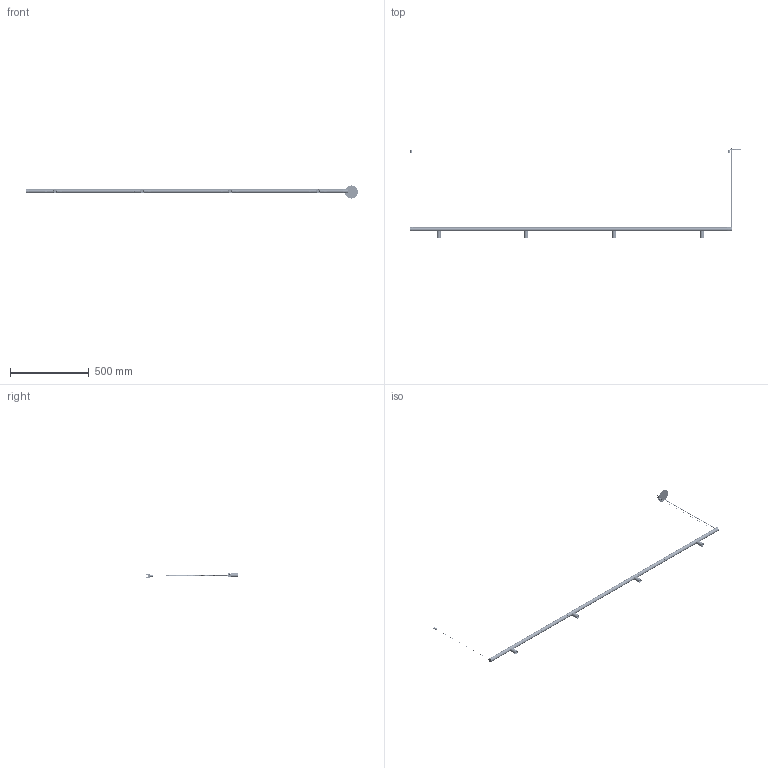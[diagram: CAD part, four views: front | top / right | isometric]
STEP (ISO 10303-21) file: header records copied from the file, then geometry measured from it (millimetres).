
FILE_DESCRIPTION (( 'STEP AP214' ), '1' );
FILE_NAME ('OVAL SPOT 20 rec.STEP', '2024-03-15T08:49:56', ( '' ), ( '' ), 'SwSTEP 2.0', 'SolidWorks 2024', '' );
FILE_SCHEMA (( 'AUTOMOTIVE_DESIGN' ));
Length unit declared in the file: millimetre
Products named in the file (41): CJ04 - ENS Foco Spot (V1.2)_V3 09-20; Tapa Floron Emp. MICRO_Tapa empotarable; CJ01-ENS_Adaptador 24V_Proyector; Ensamble Led; eje cable colgante_M8 MICRO; Tubo Alu. Focus 25_V3-30-09-21; Ensamble Tapa + Tope_Con Conector; Lente -115.11.HILL-20-22°-CREE; Tapon Tapa_2; Prisionero STEAB M4x4_8; Floron U Muelle MICRO; Difusor Negro Oval_0.44m; Taco cuerpo Micro; Jack_Scpre; Taco Micro_Ø10 M10*5; Tuerca M8_Predeterminada; Tapa Micro V5_V5.1; Conector Molex Hembra 43020; Regulador Cable Ø0.6 (Bereta LT1007.0601); Ensamble Tensor Micro_Con Cable; Boca Focus 25_ZDNTL; Perfil Micro V4_2m; DM05-Tapa SPOT(V1.2); CUI_DEVICES_PJ-005B_Ø2.5; Tuerca Hembra Conector Jack; 04-23DM03-Tope_Adaptador_1.3; Holder; 04-23DM01-Adaptador_Caja_DM01.3; Cable_VISUAL Alimentación Micro; Ensamblaje FLORON EMP. MICRO; 04-23DM02-Adaptador_Tapa(V1.2)_24V; Tija Tiny_Inyección ; Tapa Unión-Final V5_V5.1 Colgante Union ; Cable acero_0.5m; BLX V-4 Single Array; OVAL SPOT 20 rec; countersunk flat head cross recess screw_din_DIN EN ISO 7046-1 - M2.5 x 6 - Z - 6N; Tapa Alimentación Perfil_SCPRE; Ensamble Conector Jack Unión_Alimentación Colgante SCPRE; Difusor Negro Oval_0.1m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
Assembly tree (55 placements, depth 4):
  OVAL SPOT 20 rec
    Perfil Micro V4_2m
    CJ01-ENS_Adaptador 24V_Proyector  x4
      04-23DM01-Adaptador_Caja_DM01.3
      04-23DM02-Adaptador_Tapa(V1.2)_24V
      Conector Molex Hembra 43020
      Driver Entity EN1689
      04-23DM03-Tope_Adaptador_1.3
      Tija Tiny_Inyección 
    CJ04 - ENS Foco Spot (V1.2)_V3 09-20  x4
      Tubo Alu. Focus 25_V3-30-09-21
      Boca Focus 25_ZDNTL
      Ensamble Led
        BLX V-4 Single Array
        Holder
        countersunk flat head cross recess screw_din_DIN EN ISO 7046-1 - M2.5 x 6 - Z - 6N  x2
      Prisionero STEAB M4x4_8
      Lente -115.11.HILL-20-22°-CREE
      DM05-Tapa SPOT(V1.2)
    Difusor Negro Oval_0.1m  x2
    Difusor Negro Oval_0.44m  x3
    Ensamble Tapa + Tope_Con Conector  x2
      Tapa Micro V5_V5.1
      CUI_DEVICES_PJ-005B_Ø2.5
      Tuerca Hembra Conector Jack
    Ensamble Tensor Micro_Con Cable  x2
      Taco Micro_Ø10 M10*5
      Taco cuerpo Micro
      Regulador Cable Ø0.6 (Bereta LT1007.0601)
      Cable acero_0.5m
    Tapa Unión-Final V5_V5.1 Colgante Union   x2
    Ensamble Conector Jack Unión_Alimentación Colgante SCPRE
      Cable_VISUAL Alimentación Micro
      Jack_Scpre
      Tapa Alimentación Perfil_SCPRE
      Prisionero STEAB M4x4_8
    Ensamblaje FLORON EMP. MICRO
      Tapa Floron Emp. MICRO_Tapa empotarable
      Floron U Muelle MICRO
      eje cable colgante_M8 MICRO
      Tuerca M8_Predeterminada
    Tapon Tapa_2
Bounding box: 2111.94 x 590.07 x 83.01 mm (x, y, z)
Volume: 422244.8 mm3; surface area: 547607.5 mm2
Topology: 92 solids, 154 shells, 7253 faces, 19283 edges, 12357 vertices
Faces by surface type: plane 2845, cylinder 2500, bspline 896, torus 501, cone 379, sphere 132
Entity records: 114835 total; most frequent: CARTESIAN_POINT 61219, ORIENTED_EDGE 11691, DIRECTION 10021, EDGE_CURVE 5893, VERTEX_POINT 3835, AXIS2_PLACEMENT_3D 3704, LINE 2613, VECTOR 2613
